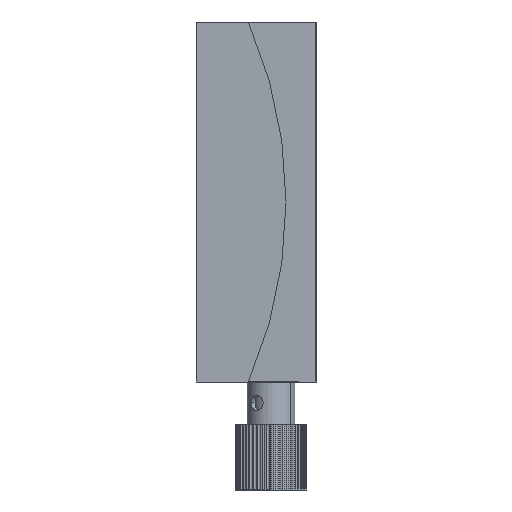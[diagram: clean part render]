
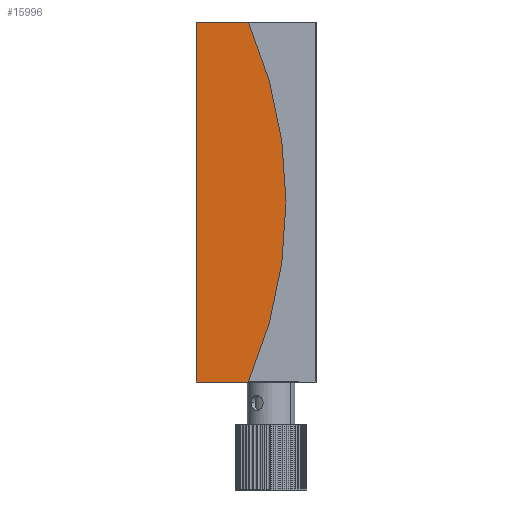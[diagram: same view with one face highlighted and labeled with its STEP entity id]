
A CAD part, left-side view. The second image highlights one B-rep face of the part: STEP entity #15996.
In plain terms, the highlighted planar face has unit normal (-1, 0, 0).
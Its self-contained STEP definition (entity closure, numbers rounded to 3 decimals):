
#297 = AXIS2_PLACEMENT_3D ( 'NONE', #15622, #10326, #2365 ) ;
#414 = DIRECTION ( 'NONE',  ( 0., 0., 1. ) ) ;
#666 = VERTEX_POINT ( 'NONE', #11407 ) ;
#1023 = PLANE ( 'NONE',  #297 ) ;
#1116 = ORIENTED_EDGE ( 'NONE', *, *, #11197, .F. ) ;
#1997 = VECTOR ( 'NONE', #4522, 1000. ) ;
#2365 = DIRECTION ( 'NONE',  ( 0., 0., -1. ) ) ;
#4033 = FACE_OUTER_BOUND ( 'NONE', #6415, .T. ) ;
#4252 = CIRCLE ( 'NONE', #14233, 75. ) ;
#4419 = CARTESIAN_POINT ( 'NONE',  ( -30., 10., 30. ) ) ;
#4522 = DIRECTION ( 'NONE',  ( 0., 1., 0. ) ) ;
#4743 = CARTESIAN_POINT ( 'NONE',  ( -30., 70., 0. ) ) ;
#5048 = VERTEX_POINT ( 'NONE', #4419 ) ;
#5379 = LINE ( 'NONE', #8416, #8096 ) ;
#5487 = EDGE_CURVE ( 'NONE', #9218, #5048, #5379, .T. ) ;
#6065 = EDGE_CURVE ( 'NONE', #5048, #7137, #7255, .T. ) ;
#6067 = CARTESIAN_POINT ( 'NONE',  ( -30., 1.261, 30. ) ) ;
#6096 = DIRECTION ( 'NONE',  ( 0., 0., -1. ) ) ;
#6415 = EDGE_LOOP ( 'NONE', ( #15671, #10084, #1116, #9056 ) ) ;
#6823 = VECTOR ( 'NONE', #9650, 1000. ) ;
#7137 = VERTEX_POINT ( 'NONE', #6067 ) ;
#7255 = LINE ( 'NONE', #8281, #6823 ) ;
#7697 = EDGE_CURVE ( 'NONE', #7137, #666, #4252, .T. ) ;
#8096 = VECTOR ( 'NONE', #414, 1000. ) ;
#8281 = CARTESIAN_POINT ( 'NONE',  ( -30., 10., 30. ) ) ;
#8416 = CARTESIAN_POINT ( 'NONE',  ( -30., 10., 30. ) ) ;
#8505 = CARTESIAN_POINT ( 'NONE',  ( -30., 10., -30. ) ) ;
#9056 = ORIENTED_EDGE ( 'NONE', *, *, #7697, .F. ) ;
#9218 = VERTEX_POINT ( 'NONE', #12564 ) ;
#9650 = DIRECTION ( 'NONE',  ( 0., -1., 0. ) ) ;
#10084 = ORIENTED_EDGE ( 'NONE', *, *, #5487, .F. ) ;
#10326 = DIRECTION ( 'NONE',  ( 1., 0., 0. ) ) ;
#11197 = EDGE_CURVE ( 'NONE', #666, #9218, #16985, .T. ) ;
#11407 = CARTESIAN_POINT ( 'NONE',  ( -30., 1.261, -30. ) ) ;
#12564 = CARTESIAN_POINT ( 'NONE',  ( -30., 10., -30. ) ) ;
#14034 = DIRECTION ( 'NONE',  ( 1., 0., 0. ) ) ;
#14233 = AXIS2_PLACEMENT_3D ( 'NONE', #4743, #14034, #6096 ) ;
#15622 = CARTESIAN_POINT ( 'NONE',  ( -30., 70., 0. ) ) ;
#15671 = ORIENTED_EDGE ( 'NONE', *, *, #6065, .F. ) ;
#15996 = ADVANCED_FACE ( 'NONE', ( #4033 ), #1023, .F. ) ;
#16985 = LINE ( 'NONE', #8505, #1997 ) ;
